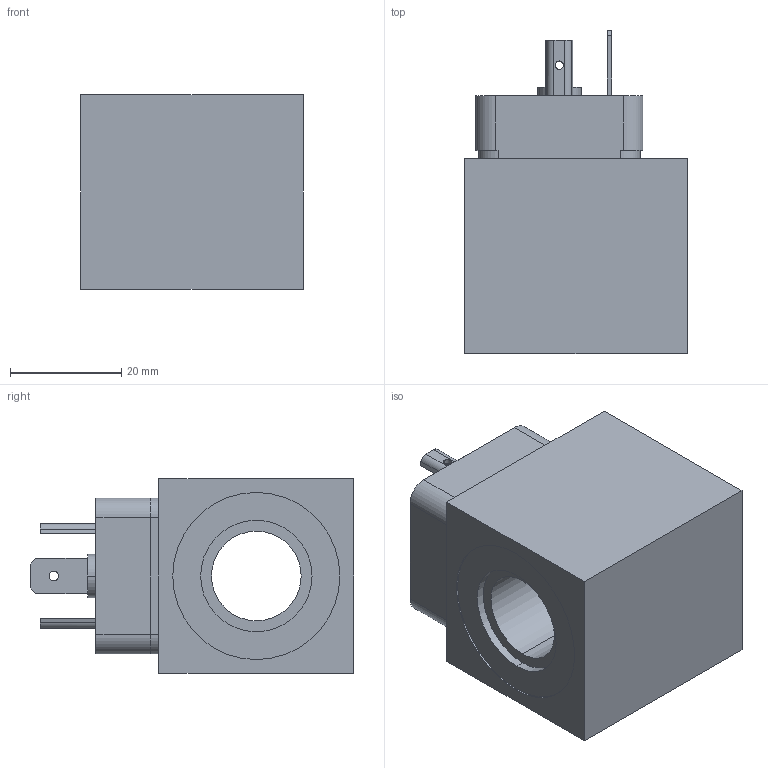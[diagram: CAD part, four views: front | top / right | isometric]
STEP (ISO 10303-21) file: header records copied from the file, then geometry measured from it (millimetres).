
FILE_DESCRIPTION (( 'STEP AP214' ), '1' );
FILE_NAME ('MDE35_16x40.STEP', '2015-07-07T06:35:12', ( '' ), ( '' ), 'SwSTEP 2.0', 'SolidWorks 2014', '' );
FILE_SCHEMA (( 'AUTOMOTIVE_DESIGN' ));
Length unit declared in the file: millimetre
Products named in the file (2): MDE35_16x40
Bounding box: 40 x 58.1 x 35 mm (x, y, z)
Volume: 48588.7 mm3; surface area: 13145.3 mm2
Topology: 1 solids, 5 shells, 244 faces, 634 edges, 417 vertices
Faces by surface type: plane 158, cylinder 80, cone 4, bspline 2
Entity records: 10287 total; most frequent: CARTESIAN_POINT 1562, DIRECTION 1275, ORIENTED_EDGE 1268, EDGE_CURVE 634, LINE 439, VECTOR 439, AXIS2_PLACEMENT_3D 418, VERTEX_POINT 417
